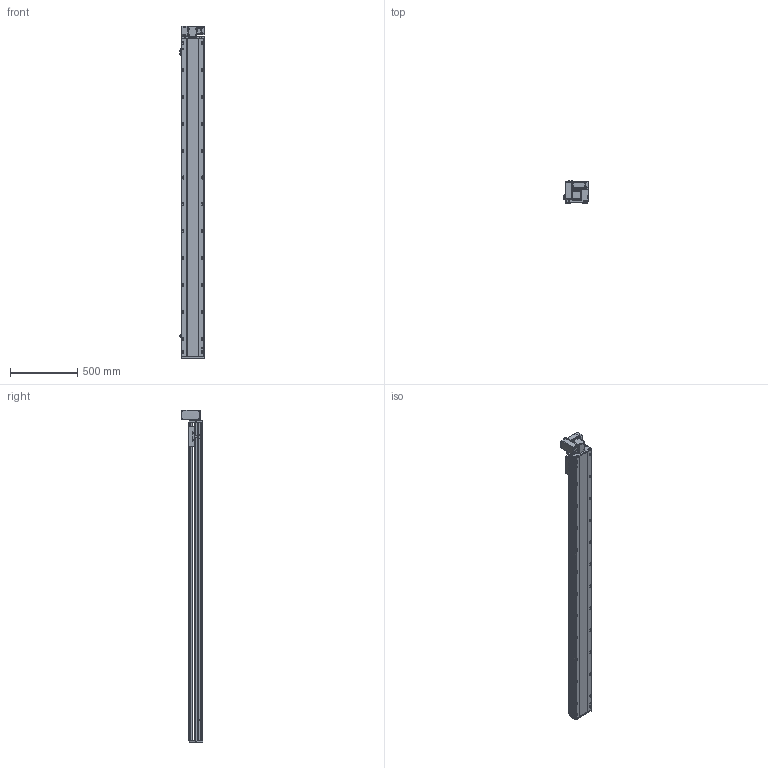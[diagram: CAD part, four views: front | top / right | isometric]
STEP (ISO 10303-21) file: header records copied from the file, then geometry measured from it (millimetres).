
FILE_DESCRIPTION (( 'STEP AP214' ), '1' );
FILE_NAME ('RTB17S-XX-2100-LW-M40-C4.STEP', '2025-12-11T07:13:51', ( '' ), ( '' ), 'SwSTEP 2.0', 'SolidWorks 2018', '' );
FILE_SCHEMA (( 'AUTOMOTIVE_DESIGN' ));
Length unit declared in the file: millimetre
Products named in the file (14): RTB14-L-017P^RTB17S-LW-々湍釱蚾饜-400W_RTB17S-XX-XX-LW-M40-C4; RTB14-L-018P^RTB17S-LW-々湍釱蚾饜-400W_RTB17S-XX-XX-LW-M40-C4; RTH13-BL-012覜茼え俋离^RTB17S-XX-XX-LW-M40-C4; RTB17S-L-014-T20--々湍釱^RTB17S-LW-々湍釱蚾饜-400W_RTB17S-XX-XX-LW-M40-C4; RTB14-L-008-M20--萇儂啣^RTB17S-LW-々湍釱蚾饜-400W_RTB17S-XX-XX-LW-M40-C4; RTB17S-XX-2100-LW-M40-C4; RTB14-L-005P--轴承塑胶压盖^RTB17S-LW-皮带座装配-400W_RTB17S-XX-XX-LW-M40-C4; RTB17-R-011菁釱^RTB17S-XX-XX-LW-M40-C4; 400W侜督萇儂^RTB17S-XX-XX-LW-M40-C4; RTB17S-L-004佪裝蹟譫蟀諉釱^RTB17S-XX-XX-LW-M40-C4; RTB17S-L-007奻裔^RTB17S-XX-XX-LW-M40-C4; OMRON EE-SX672 传感器^RTB17S-XX-XX-LW-M40-C4; RTB17S-LW-々湍釱蚾饜-400W^RTB17S-XX-XX-LW-M40-C4; RTB17S-L-001耜醱啣^RTB17S-XX-XX-LW-M40-C4
Assembly tree (16 placements, depth 3):
  RTB17S-XX-2100-LW-M40-C4
    RTB17-R-011菁釱^RTB17S-XX-XX-LW-M40-C4
    RTB17S-L-007奻裔^RTB17S-XX-XX-LW-M40-C4
    OMRON EE-SX672 传感器^RTB17S-XX-XX-LW-M40-C4  x3
    RTB17S-L-001耜醱啣^RTB17S-XX-XX-LW-M40-C4
    400W侜督萇儂^RTB17S-XX-XX-LW-M40-C4
    RTB17S-L-004佪裝蹟譫蟀諉釱^RTB17S-XX-XX-LW-M40-C4
    RTH13-BL-012覜茼え俋离^RTB17S-XX-XX-LW-M40-C4
    RTB17S-LW-々湍釱蚾饜-400W^RTB17S-XX-XX-LW-M40-C4
      RTB17S-L-014-T20--々湍釱^RTB17S-LW-々湍釱蚾饜-400W_RTB17S-XX-XX-LW-M40-C4
      RTB14-L-005P--轴承塑胶压盖^RTB17S-LW-皮带座装配-400W_RTB17S-XX-XX-LW-M40-C4
      RTB14-L-008-M20--萇儂啣^RTB17S-LW-々湍釱蚾饜-400W_RTB17S-XX-XX-LW-M40-C4
      RTB14-L-017P^RTB17S-LW-々湍釱蚾饜-400W_RTB17S-XX-XX-LW-M40-C4  x2
      RTB14-L-018P^RTB17S-LW-々湍釱蚾饜-400W_RTB17S-XX-XX-LW-M40-C4
Bounding box: 186 x 160.5 x 2472.5 mm (x, y, z)
Volume: 21342140 mm3; surface area: 2477184.7 mm2
Topology: 15 solids, 15 shells, 2301 faces, 6411 edges, 4185 vertices
Faces by surface type: plane 1080, cylinder 773, bspline 301, cone 139, torus 8
Entity records: 67241 total; most frequent: CARTESIAN_POINT 19016, ORIENTED_EDGE 9666, DIRECTION 8936, EDGE_CURVE 4833, VERTEX_POINT 3173, AXIS2_PLACEMENT_3D 3103, VECTOR 2730, LINE 2730
